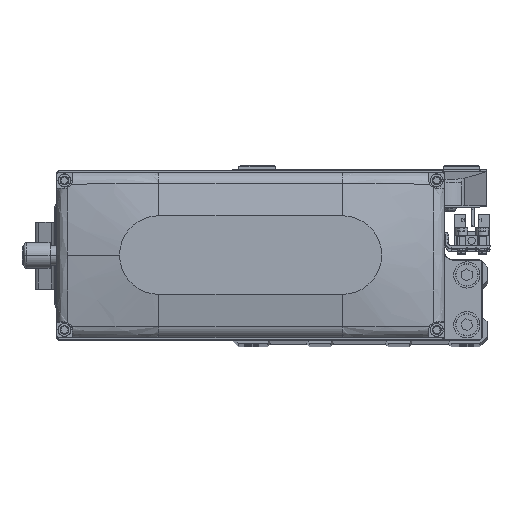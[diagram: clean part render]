
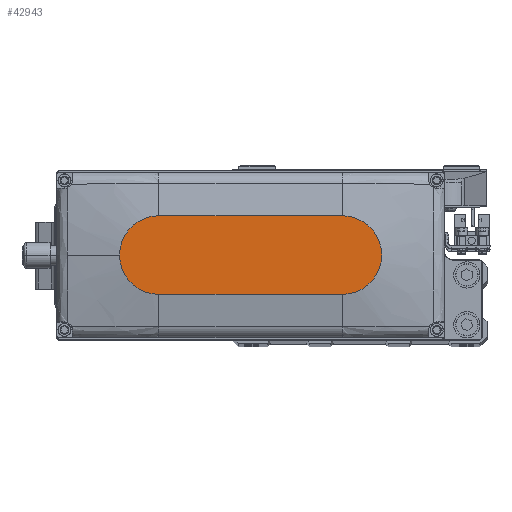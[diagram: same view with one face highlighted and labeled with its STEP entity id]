
A CAD part, top view. The second image highlights one B-rep face of the part: STEP entity #42943.
In plain terms, the highlighted planar face has unit normal (0, 0, 1).
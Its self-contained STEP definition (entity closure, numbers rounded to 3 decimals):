
#1162 = PLANE ( 'NONE',  #1729 ) ;
#1666 = CIRCLE ( 'NONE', #28180, 15. ) ;
#1729 = AXIS2_PLACEMENT_3D ( 'NONE', #15634, #30089, #44538 ) ;
#2122 = CARTESIAN_POINT ( 'NONE',  ( -35., 15., 35. ) ) ;
#2991 = EDGE_CURVE ( 'NONE', #39797, #40112, #11715, .T. ) ;
#3156 = DIRECTION ( 'NONE',  ( 1., 0., 0. ) ) ;
#3736 = VERTEX_POINT ( 'NONE', #18023 ) ;
#5146 = ORIENTED_EDGE ( 'NONE', *, *, #37782, .T. ) ;
#7237 = LINE ( 'NONE', #21684, #34816 ) ;
#9466 = CARTESIAN_POINT ( 'NONE',  ( 35., 0., 35. ) ) ;
#11715 = LINE ( 'NONE', #26167, #21402 ) ;
#12961 = CARTESIAN_POINT ( 'NONE',  ( 50., 0., 35. ) ) ;
#13799 = CARTESIAN_POINT ( 'NONE',  ( 35., 15., 35. ) ) ;
#15093 = CARTESIAN_POINT ( 'NONE',  ( -35., 0., 35. ) ) ;
#15187 = CIRCLE ( 'NONE', #41664, 15. ) ;
#15634 = CARTESIAN_POINT ( 'NONE',  ( 0., 0., 35. ) ) ;
#18023 = CARTESIAN_POINT ( 'NONE',  ( -35., -15., 35. ) ) ;
#21157 = CARTESIAN_POINT ( 'NONE',  ( 35., 0., 35. ) ) ;
#21402 = VECTOR ( 'NONE', #40631, 1000. ) ;
#21684 = CARTESIAN_POINT ( 'NONE',  ( -35., -15., 35. ) ) ;
#21804 = CARTESIAN_POINT ( 'NONE',  ( 35., -15., 35. ) ) ;
#22266 = VERTEX_POINT ( 'NONE', #21804 ) ;
#23914 = DIRECTION ( 'NONE',  ( 0., 0., 1. ) ) ;
#23994 = ORIENTED_EDGE ( 'NONE', *, *, #28248, .T. ) ;
#24805 = AXIS2_PLACEMENT_3D ( 'NONE', #21157, #35632, #3156 ) ;
#26167 = CARTESIAN_POINT ( 'NONE',  ( -35., 15., 35. ) ) ;
#28180 = AXIS2_PLACEMENT_3D ( 'NONE', #15093, #29557, #44009 ) ;
#28248 = EDGE_CURVE ( 'NONE', #22266, #46416, #15187, .T. ) ;
#28402 = EDGE_LOOP ( 'NONE', ( #34168, #43768, #5146, #23994, #30385 ) ) ;
#29557 = DIRECTION ( 'NONE',  ( 0., 0., 1. ) ) ;
#30089 = DIRECTION ( 'NONE',  ( 0., 0., 1. ) ) ;
#30385 = ORIENTED_EDGE ( 'NONE', *, *, #35295, .T. ) ;
#33633 = FACE_OUTER_BOUND ( 'NONE', #28402, .T. ) ;
#34168 = ORIENTED_EDGE ( 'NONE', *, *, #2991, .T. ) ;
#34816 = VECTOR ( 'NONE', #36152, 1000. ) ;
#35295 = EDGE_CURVE ( 'NONE', #46416, #39797, #45237, .T. ) ;
#35632 = DIRECTION ( 'NONE',  ( 0., 0., 1. ) ) ;
#36152 = DIRECTION ( 'NONE',  ( 1., 0., 0. ) ) ;
#37782 = EDGE_CURVE ( 'NONE', #3736, #22266, #7237, .T. ) ;
#38389 = DIRECTION ( 'NONE',  ( 1., 0., 0. ) ) ;
#39797 = VERTEX_POINT ( 'NONE', #13799 ) ;
#40112 = VERTEX_POINT ( 'NONE', #2122 ) ;
#40631 = DIRECTION ( 'NONE',  ( -1., 0., 0. ) ) ;
#41664 = AXIS2_PLACEMENT_3D ( 'NONE', #9466, #23914, #38389 ) ;
#42062 = EDGE_CURVE ( 'NONE', #40112, #3736, #1666, .T. ) ;
#42943 = ADVANCED_FACE ( 'NONE', ( #33633 ), #1162, .T. ) ;
#43768 = ORIENTED_EDGE ( 'NONE', *, *, #42062, .T. ) ;
#44009 = DIRECTION ( 'NONE',  ( 1., 0., 0. ) ) ;
#44538 = DIRECTION ( 'NONE',  ( 1., 0., 0. ) ) ;
#45237 = CIRCLE ( 'NONE', #24805, 15. ) ;
#46416 = VERTEX_POINT ( 'NONE', #12961 ) ;
